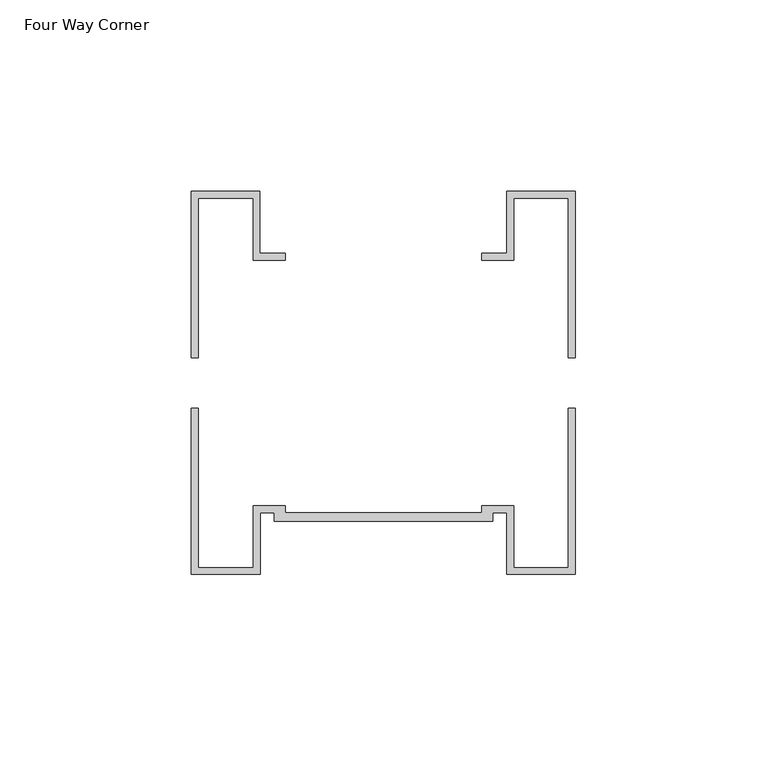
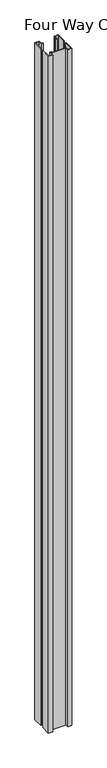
"""IFC4 building model written with IfcOpenShell, lengths in millimetres: proxy geometry, Connection-Corner-Teknion-OptosLP-Four_Way_FZCA4B_G : Four Way Corner."""

from ifc_helpers import new_model, si_unit, origin, origin_with_axes, place, context, project, spatial, polyline, outline, extrude, source, transform, mapped, element, save


def four_way_corner_39b8d94a(model_context):
    return source(origin(), model_context, "Body", "SweptSolid", [
        extrude(outline(polyline([(-50.00625, -6.5217245), (-48.22825, -6.5217245), (-48.22825, -48.1777245), (-33.839552, -48.1777245), (-33.839552, -32.0487245), (-25.5168694, -32.0487245), (-25.5168694, -33.8267245), (25.7691653, -33.8267245), (25.7691653, -32.0487245), (34.1511653, -32.0487245), (34.1511653, -48.1777245), (48.3751653, -48.1777245), (48.3751653, -6.5217245), (50.1531653, -6.5217245), (50.1531653, -49.9557245), (32.3731653, -49.9557245), (32.3731653, -33.8267245), (28.701148, -33.8267245), (28.701148, -36.0), (-28.448852, -36.0), (-28.448852, -33.8267245), (-32.061552, -33.8267245), (-32.061552, -49.9557245), (-50.00625, -49.9557245), (-50.00625, -6.5217245)])), origin_with_axes(), (0.0, 0.0, 1.0), 3048.0),
        extrude(outline(polyline([(32.3035307, 50.0442755), (50.1531653, 50.0442755), (50.1531653, 6.6102755), (48.3751653, 6.6102755), (48.3751653, 48.2662755), (34.1511653, 48.2662755), (34.1511653, 32.1372755), (25.7691653, 32.1372755), (25.7691653, 33.9152755), (32.3035307, 33.9152755), (32.3035307, 50.0442755)])), origin_with_axes(), (0.0, 0.0, 1.0), 3048.0),
        extrude(outline(polyline([(-50.00625, 50.0442755), (-32.1208694, 50.0442755), (-32.1208694, 33.9152755), (-25.5168694, 33.9152755), (-25.5168694, 32.1372755), (-33.8988694, 32.1372755), (-33.8988694, 48.2503065), (-48.22825, 48.2503065), (-48.22825, 6.6102755), (-50.00625, 6.6102755), (-50.00625, 50.0442755)])), origin_with_axes(), (0.0, 0.0, 1.0), 3048.0),
    ])


if __name__ == "__main__":
    model = new_model("IFC4")
    model_context = context("Model", 3, world=origin())
    ifc_project = project(units=[si_unit("LENGTHUNIT", "METRE", prefix="MILLI")], contexts=[model_context])
    site = spatial("IfcSite", under=ifc_project)
    building = spatial("IfcBuilding", under=site)
    placement = place(None, origin())
    four_way_corner_shape = four_way_corner_39b8d94a(model_context)
    element("IfcBuildingElementProxy", 1, Name="Connection-Corner-Teknion-OptosLP-Four_Way_FZCA4B_G : Four Way Corner", ObjectType="Connection-Corner-Teknion-OptosLP-Four_Way_FZCA4B_G : Four Way Corner", at=placement, inside=building, context=model_context, shape_type="MappedRepresentation", body=[
        mapped(four_way_corner_shape, transform((0.0, 0.0, 0.0), x_axis=(1.0, 0.0, 0.0), y_axis=(0.0, 1.0, 0.0), z_axis=(0.0, 0.0, 1.0))),
    ])
    save(model, "model.ifc")
